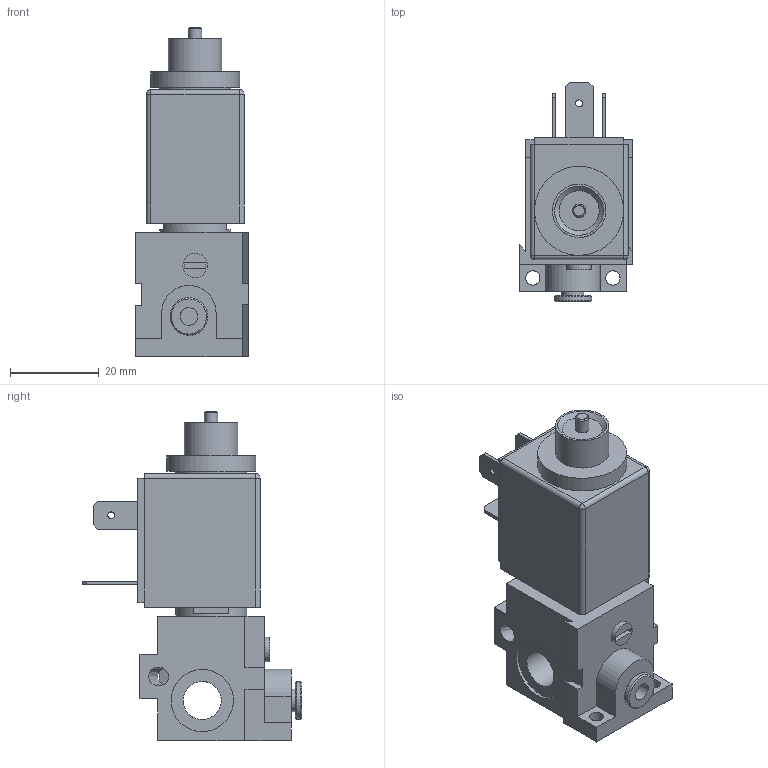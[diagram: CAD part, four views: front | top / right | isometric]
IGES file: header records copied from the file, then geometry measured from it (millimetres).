
Global section: file name: 345_M##-1; native system: Autodesk Inventor 2014; preprocessor: unknown; author: A. Manieri; date: 20161004.154146; units: millimetre
Bounding box: 25.4 x 49.4 x 74 mm (x, y, z)
Volume: 34791.8 mm3; surface area: 13597.9 mm2
Topology: 2 solids, 2 shells, 136 faces, 366 edges, 253 vertices
Faces by surface type: bspline 136
